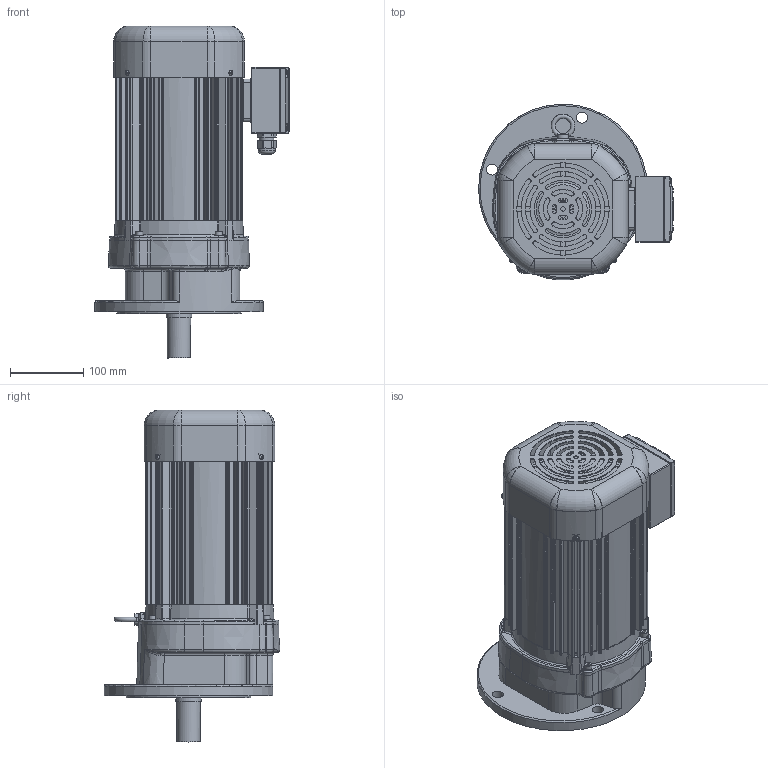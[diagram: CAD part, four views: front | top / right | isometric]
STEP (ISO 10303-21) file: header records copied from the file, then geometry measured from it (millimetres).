
FILE_DESCRIPTION(/* description */ (''),/* implementation_level */ '2;1');
FILE_NAME(/* name */ 'Z:\동력 3D 파일\PMK135_1.5kW_3D.stp',/* time_stamp */ '2021-11-18T16:51:10+09:00',/* author */ ('jaebok'),/* organization */ (''),/* preprocessor_version */ 'ST-DEVELOPER v18.1',/* originating_system */ 'Autodesk Inventor 2022',/* authorisation */ '');
FILE_SCHEMA (('AUTOMOTIVE_DESIGN { 1 0 10303 214 3 1 1 }'));
Products named in the file (1): 부품13
Bounding box: 265.5 x 239.45 x 452.5 mm (x, y, z)
Volume: 3053222.3 mm3; surface area: 933429.8 mm2
Topology: 1 solids, 31 shells, 3091 faces, 7830 edges, 4667 vertices
Faces by surface type: plane 961, cylinder 821, bspline 776, torus 278, cone 141, sphere 114
Full cylindrical faces by diameter (mm): 3.25 x1, 3.6 x4, 4 x21, 4.917 x3, 5 x19, 6 x13, 6.5 x4, 6.8 x1, 7 x13, 8 x3, 9.5 x4, 10 x5, 12 x1, 12.5 x1, 15 x5, 20 x2, 20.6 x1, 21 x1, 22 x2, 23.6 x1, 25 x1, 26 x1, 32 x2, 35 x2, 36 x1, 38 x1, 40 x1, 42 x1, 50 x1, 52 x1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
Entity records: 121460 total; most frequent: CARTESIAN_POINT 48993, ORIENTED_EDGE 15186, DIRECTION 13410, EDGE_CURVE 7593, AXIS2_PLACEMENT_3D 5432, VERTEX_POINT 4665, EDGE_LOOP 3308, FACE_OUTER_BOUND 3091
